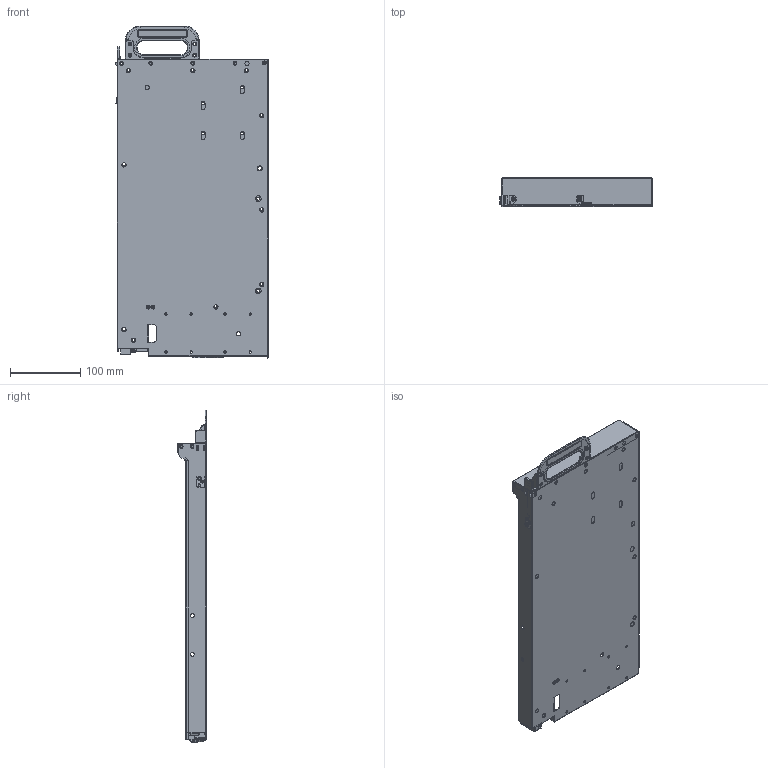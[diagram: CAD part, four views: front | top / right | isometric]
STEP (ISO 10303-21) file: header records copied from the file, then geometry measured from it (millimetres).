
FILE_DESCRIPTION((''),'2;1');
FILE_NAME('OES-SLED-ASSY-NOKIA-REF_ASM_ASM','2018-11-21T',('10111034'),(''),'PRO/ENGINEER BY PARAMETRIC TECHNOLOGY CORPORATION, 2014050','PRO/ENGINEER BY PARAMETRIC TECHNOLOGY CORPORATION, 2014050','');
FILE_SCHEMA(('AUTOMOTIVE_DESIGN_CC2 { 1 2 10303 214 -1 1 5 2 }'));
Products named in the file (15): S5BN-MB-BLADE-LATCH-L; S5FN-S5T-HDD-LATCH-COVER; S9N-MB-TRAY-HANDLE-REF; TU1-RIVET-DUAL-FLAT; S9N-SLED-FNT-REF; S9N-MB-TRAY-BASE-1U-REF; OES-SLED-ASSY_ASM_ASM; S9N-MB-REF; S9N-10123543-102LF; DFAC36MR000; DFHS03FR014; SCREW_M30L50_NWI; S9N-MB-REF-SUB-ASSY_ASM_ASM; S9N-MB-REF-ASSY_ASM_ASM; OES-SLED-ASSY-NOKIA-REF_ASM_ASM
Assembly tree (15 placements, depth 4):
  OES-SLED-ASSY-NOKIA-REF_ASM_ASM
    OES-SLED-ASSY_ASM_ASM
      S5BN-MB-BLADE-LATCH-L
      S5FN-S5T-HDD-LATCH-COVER
      S9N-MB-TRAY-HANDLE-REF
      TU1-RIVET-DUAL-FLAT  x2
      S9N-SLED-FNT-REF
      S9N-MB-TRAY-BASE-1U-REF
    S9N-MB-REF-ASSY_ASM_ASM
      S9N-MB-REF-SUB-ASSY_ASM_ASM
        S9N-MB-REF
        S9N-10123543-102LF
        DFAC36MR000
        DFHS03FR014
        SCREW_M30L50_NWI
Bounding box: 218.5 x 41 x 472.12 mm (x, y, z)
Volume: 243634 mm3; surface area: 433020.4 mm2
Topology: 11 solids, 12 shells, 2688 faces, 7068 edges, 4539 vertices
Faces by surface type: plane 1671, cylinder 770, cone 162, torus 67, bspline 16, sphere 2
Entity records: 97188 total; most frequent: CARTESIAN_POINT 17947, DIRECTION 14227, ORIENTED_EDGE 14036, EDGE_CURVE 7038, VECTOR 4871, LINE 4871, AXIS2_PLACEMENT_3D 4678, VERTEX_POINT 4523
